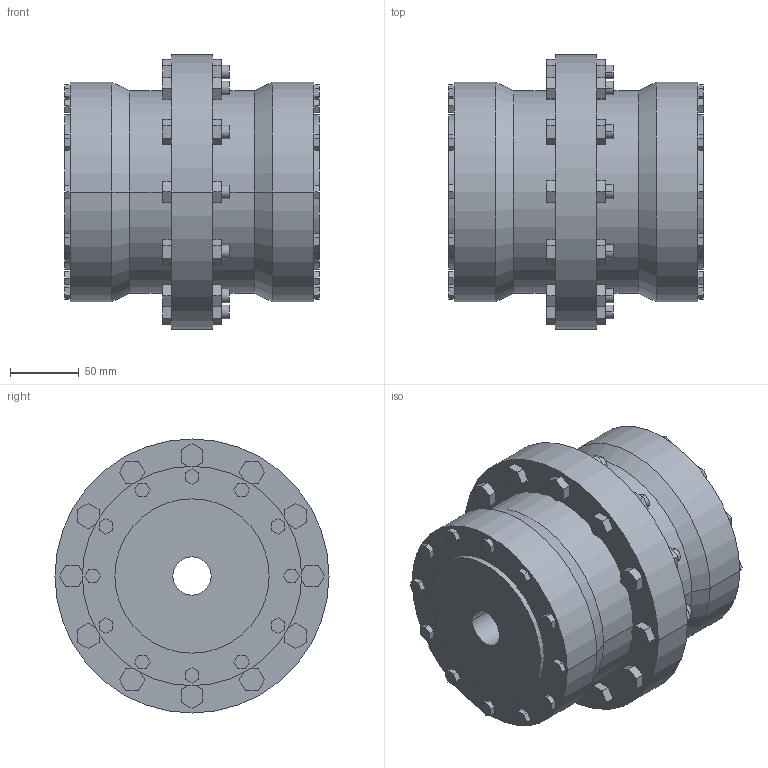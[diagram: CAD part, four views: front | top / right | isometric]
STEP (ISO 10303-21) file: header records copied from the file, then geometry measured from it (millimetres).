
FILE_DESCRIPTION((''),'2;1');
FILE_NAME('A18978000-0_ASM','2019-05-23T',('AB_Roschiwal'),('RENK AG'),'PRO/ENGINEER BY PARAMETRIC TECHNOLOGY CORPORATION, 2015440','PRO/ENGINEER BY PARAMETRIC TECHNOLOGY CORPORATION, 2015440','');
FILE_SCHEMA(('CONFIG_CONTROL_DESIGN'));
Length unit declared in the file: millimetre
Products named in the file (3): SBK70_GEHAEUSE; SBK70_NABE; A18978000-0_ASM
Assembly tree (3 placements, depth 2):
  A18978000-0_ASM
    SBK70_GEHAEUSE
    SBK70_NABE  x2
Bounding box: 186 x 200 x 200 mm (x, y, z)
Volume: 3153608.8 mm3; surface area: 369286.2 mm2
Topology: 3 solids, 3 shells, 422 faces, 1036 edges, 688 vertices
Faces by surface type: plane 362, cylinder 56, cone 4
Entity records: 12052 total; most frequent: CARTESIAN_POINT 2100, ORIENTED_EDGE 2024, DIRECTION 1940, EDGE_CURVE 1012, VECTOR 916, LINE 916, VERTEX_POINT 672, AXIS2_PLACEMENT_3D 512
